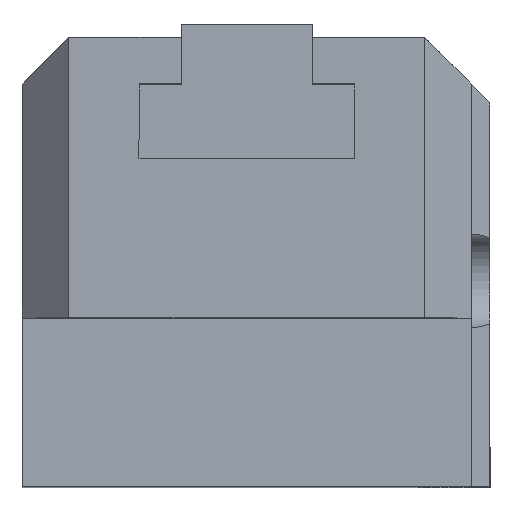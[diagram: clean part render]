
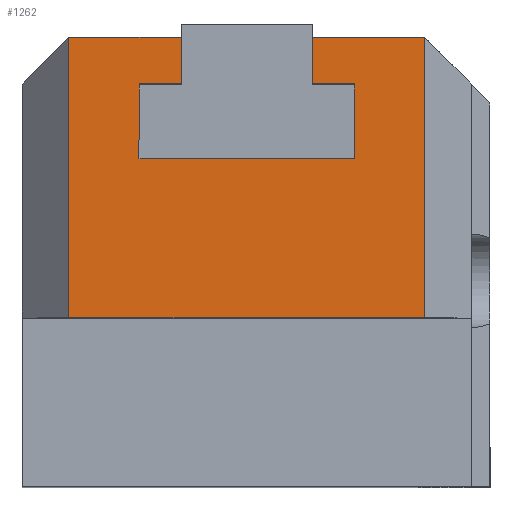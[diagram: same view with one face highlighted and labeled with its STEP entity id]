
A CAD part, top view. The second image highlights one B-rep face of the part: STEP entity #1262.
In plain terms, the highlighted planar face has unit normal (0, 0, 1).
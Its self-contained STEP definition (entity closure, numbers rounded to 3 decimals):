
#1044 = EDGE_CURVE ( 'NONE', #1048, #1055, #3792, .T. ) ;
#1048 = VERTEX_POINT ( 'NONE', #3892 ) ;
#1055 = VERTEX_POINT ( 'NONE', #3878 ) ;
#1061 = VERTEX_POINT ( 'NONE', #3879 ) ;
#1066 = EDGE_CURVE ( 'NONE', #1213, #1061, #3933, .T. ) ;
#1074 = VERTEX_POINT ( 'NONE', #4001 ) ;
#1076 = VERTEX_POINT ( 'NONE', #3985 ) ;
#1085 = EDGE_CURVE ( 'NONE', #1267, #1076, #3980, .T. ) ;
#1100 = EDGE_CURVE ( 'NONE', #1130, #1273, #4164, .T. ) ;
#1130 = VERTEX_POINT ( 'NONE', #4024 ) ;
#1193 = EDGE_CURVE ( 'NONE', #1207, #1213, #4179, .T. ) ;
#1207 = VERTEX_POINT ( 'NONE', #4137 ) ;
#1212 = EDGE_CURVE ( 'NONE', #1055, #1207, #4136, .T. ) ;
#1213 = VERTEX_POINT ( 'NONE', #4152 ) ;
#1255 = ORIENTED_EDGE ( 'NONE', *, *, #1375, .T. ) ;
#1258 = ORIENTED_EDGE ( 'NONE', *, *, #1399, .T. ) ;
#1259 = EDGE_LOOP ( 'NONE', ( #1255, #1258, #1385, #1384, #1402, #1417, #1564, #1424, #1549, #1567, #1522, #1565 ) ) ;
#1262 = ADVANCED_FACE ( 'NONE', ( #4355 ), #4343, .T. ) ;
#1267 = VERTEX_POINT ( 'NONE', #4375 ) ;
#1270 = EDGE_CURVE ( 'NONE', #1061, #1267, #4327, .T. ) ;
#1273 = VERTEX_POINT ( 'NONE', #4331 ) ;
#1277 = EDGE_CURVE ( 'NONE', #1273, #1048, #4319, .T. ) ;
#1375 = EDGE_CURVE ( 'NONE', #1076, #1074, #4210, .T. ) ;
#1384 = ORIENTED_EDGE ( 'NONE', *, *, #1550, .T. ) ;
#1385 = ORIENTED_EDGE ( 'NONE', *, *, #1551, .F. ) ;
#1399 = EDGE_CURVE ( 'NONE', #1074, #1400, #4639, .T. ) ;
#1400 = VERTEX_POINT ( 'NONE', #4585 ) ;
#1401 = VERTEX_POINT ( 'NONE', #4640 ) ;
#1402 = ORIENTED_EDGE ( 'NONE', *, *, #1100, .T. ) ;
#1417 = ORIENTED_EDGE ( 'NONE', *, *, #1277, .T. ) ;
#1424 = ORIENTED_EDGE ( 'NONE', *, *, #1212, .T. ) ;
#1522 = ORIENTED_EDGE ( 'NONE', *, *, #1270, .T. ) ;
#1549 = ORIENTED_EDGE ( 'NONE', *, *, #1193, .T. ) ;
#1550 = EDGE_CURVE ( 'NONE', #1401, #1130, #4756, .T. ) ;
#1551 = EDGE_CURVE ( 'NONE', #1401, #1400, #4730, .T. ) ;
#1564 = ORIENTED_EDGE ( 'NONE', *, *, #1044, .T. ) ;
#1565 = ORIENTED_EDGE ( 'NONE', *, *, #1085, .T. ) ;
#1567 = ORIENTED_EDGE ( 'NONE', *, *, #1066, .T. ) ;
#3777 = DIRECTION ( 'NONE',  ( 1., 0., 0. ) ) ;
#3778 = VECTOR ( 'NONE', #3777, 1000. ) ;
#3791 = CARTESIAN_POINT ( 'NONE',  ( 3.5, 21.5, 25. ) ) ;
#3792 = LINE ( 'NONE', #3791, #3778 ) ;
#3813 = VECTOR ( 'NONE', #3972, 1000. ) ;
#3878 = CARTESIAN_POINT ( 'NONE',  ( 5.75, 21.5, 25. ) ) ;
#3879 = CARTESIAN_POINT ( 'NONE',  ( -5.75, 21.5, 25. ) ) ;
#3892 = CARTESIAN_POINT ( 'NONE',  ( 3.5, 21.5, 25. ) ) ;
#3921 = DIRECTION ( 'NONE',  ( 0., 1., 0. ) ) ;
#3922 = VECTOR ( 'NONE', #3921, 1000. ) ;
#3923 = CARTESIAN_POINT ( 'NONE',  ( -5.75, 17.5, 25. ) ) ;
#3933 = LINE ( 'NONE', #3923, #3922 ) ;
#3972 = DIRECTION ( 'NONE',  ( 0., 1., 0. ) ) ;
#3973 = CARTESIAN_POINT ( 'NONE',  ( -3.5, 21.5, 25. ) ) ;
#3980 = LINE ( 'NONE', #3973, #3813 ) ;
#3985 = CARTESIAN_POINT ( 'NONE',  ( -3.5, 24., 25. ) ) ;
#4001 = CARTESIAN_POINT ( 'NONE',  ( -9.5, 24., 25. ) ) ;
#4024 = CARTESIAN_POINT ( 'NONE',  ( 9.5, 24., 25. ) ) ;
#4056 = VECTOR ( 'NONE', #4103, 1000. ) ;
#4058 = DIRECTION ( 'NONE',  ( -1., 0., 0. ) ) ;
#4059 = VECTOR ( 'NONE', #4058, 1000. ) ;
#4103 = DIRECTION ( 'NONE',  ( -1., 0., 0. ) ) ;
#4104 = CARTESIAN_POINT ( 'NONE',  ( 3.5, 24., 25. ) ) ;
#4135 = CARTESIAN_POINT ( 'NONE',  ( 5.75, 21.5, 25. ) ) ;
#4136 = LINE ( 'NONE', #4135, #4151 ) ;
#4137 = CARTESIAN_POINT ( 'NONE',  ( 5.75, 17.5, 25. ) ) ;
#4150 = DIRECTION ( 'NONE',  ( 0., -1., 0. ) ) ;
#4151 = VECTOR ( 'NONE', #4150, 1000. ) ;
#4152 = CARTESIAN_POINT ( 'NONE',  ( -5.75, 17.5, 25. ) ) ;
#4164 = LINE ( 'NONE', #4104, #4056 ) ;
#4178 = CARTESIAN_POINT ( 'NONE',  ( 5.75, 17.5, 25. ) ) ;
#4179 = LINE ( 'NONE', #4178, #4059 ) ;
#4210 = LINE ( 'NONE', #4296, #4295 ) ;
#4294 = DIRECTION ( 'NONE',  ( -1., 0., 0. ) ) ;
#4295 = VECTOR ( 'NONE', #4294, 1000. ) ;
#4296 = CARTESIAN_POINT ( 'NONE',  ( -9.5, 24., 25. ) ) ;
#4311 = DIRECTION ( 'NONE',  ( 0., -1., 0. ) ) ;
#4312 = VECTOR ( 'NONE', #4311, 1000. ) ;
#4315 = CARTESIAN_POINT ( 'NONE',  ( 3.5, 24., 25. ) ) ;
#4319 = LINE ( 'NONE', #4315, #4312 ) ;
#4323 = DIRECTION ( 'NONE',  ( 1., 0., 0. ) ) ;
#4324 = VECTOR ( 'NONE', #4323, 1000. ) ;
#4326 = CARTESIAN_POINT ( 'NONE',  ( -5.75, 21.5, 25. ) ) ;
#4327 = LINE ( 'NONE', #4326, #4324 ) ;
#4331 = CARTESIAN_POINT ( 'NONE',  ( 3.5, 24., 25. ) ) ;
#4340 = AXIS2_PLACEMENT_3D ( 'NONE', #4345, #4344, #4374 ) ;
#4343 = PLANE ( 'NONE',  #4340 ) ;
#4344 = DIRECTION ( 'NONE',  ( 0., 0., 1. ) ) ;
#4345 = CARTESIAN_POINT ( 'NONE',  ( 12., 0., 25. ) ) ;
#4355 = FACE_OUTER_BOUND ( 'NONE', #1259, .T. ) ;
#4374 = DIRECTION ( 'NONE',  ( 1., 0., 0. ) ) ;
#4375 = CARTESIAN_POINT ( 'NONE',  ( -3.5, 21.5, 25. ) ) ;
#4513 = VECTOR ( 'NONE', #4637, 1000. ) ;
#4585 = CARTESIAN_POINT ( 'NONE',  ( -9.5, 9., 25. ) ) ;
#4637 = DIRECTION ( 'NONE',  ( 0., -1., 0. ) ) ;
#4638 = CARTESIAN_POINT ( 'NONE',  ( -9.5, 9., 25. ) ) ;
#4639 = LINE ( 'NONE', #4638, #4513 ) ;
#4640 = CARTESIAN_POINT ( 'NONE',  ( 9.5, 9., 25. ) ) ;
#4698 = DIRECTION ( 'NONE',  ( 0., 1., 0. ) ) ;
#4699 = VECTOR ( 'NONE', #4698, 1000. ) ;
#4727 = DIRECTION ( 'NONE',  ( -1., 0., 0. ) ) ;
#4728 = VECTOR ( 'NONE', #4727, 1000. ) ;
#4729 = CARTESIAN_POINT ( 'NONE',  ( 12., 9., 25. ) ) ;
#4730 = LINE ( 'NONE', #4729, #4728 ) ;
#4755 = CARTESIAN_POINT ( 'NONE',  ( 9.5, 21.5, 25. ) ) ;
#4756 = LINE ( 'NONE', #4755, #4699 ) ;
